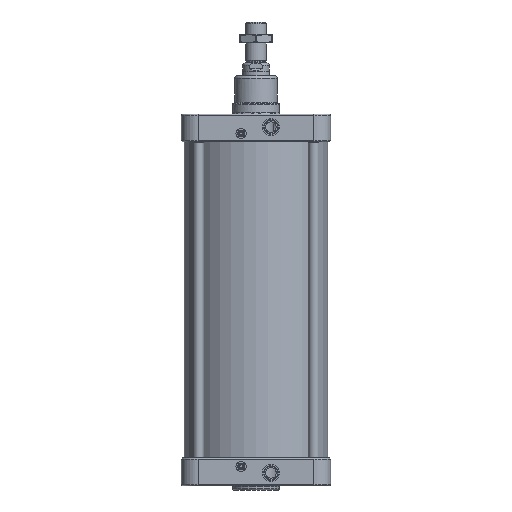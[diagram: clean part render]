
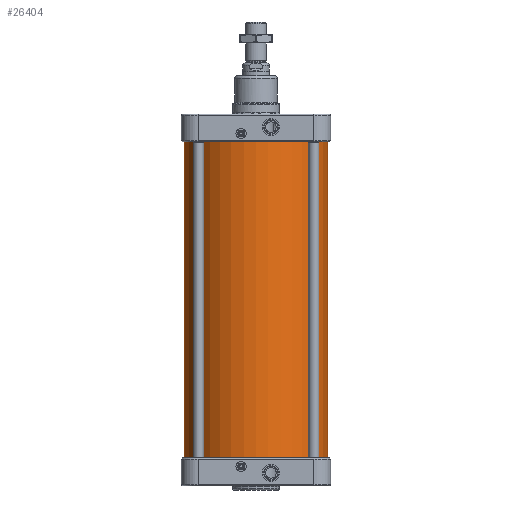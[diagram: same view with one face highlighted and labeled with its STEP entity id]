
A CAD part, front view. The second image highlights one B-rep face of the part: STEP entity #26404.
In plain terms, the highlighted cylindrical face has radius 168 mm (diameter 336 mm), a full revolution.
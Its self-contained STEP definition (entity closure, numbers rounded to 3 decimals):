
#2804=CIRCLE('',#29645,168.);
#2805=CIRCLE('',#29647,168.);
#3478=FACE_BOUND('',#7098,.T.);
#5147=FACE_OUTER_BOUND('',#7097,.T.);
#7097=EDGE_LOOP('',(#22547));
#7098=EDGE_LOOP('',(#22548));
#11979=VERTEX_POINT('',#64759);
#11980=VERTEX_POINT('',#64762);
#15511=EDGE_CURVE('',#11979,#11979,#2804,.T.);
#15512=EDGE_CURVE('',#11980,#11980,#2805,.T.);
#22547=ORIENTED_EDGE('',*,*,#15511,.T.);
#22548=ORIENTED_EDGE('',*,*,#15512,.T.);
#23070=CYLINDRICAL_SURFACE('',#29646,168.);
#26404=ADVANCED_FACE('',(#5147,#3478),#23070,.T.);
#29645=AXIS2_PLACEMENT_3D('',#64760,#36878,#36879);
#29646=AXIS2_PLACEMENT_3D('',#64761,#36880,#36881);
#29647=AXIS2_PLACEMENT_3D('',#64763,#36882,#36883);
#36878=DIRECTION('center_axis',(0.,0.,1.));
#36879=DIRECTION('ref_axis',(-1.,0.,0.));
#36880=DIRECTION('center_axis',(0.,0.,1.));
#36881=DIRECTION('ref_axis',(-1.,0.,0.));
#36882=DIRECTION('center_axis',(0.,0.,-1.));
#36883=DIRECTION('ref_axis',(-1.,0.,0.));
#64759=CARTESIAN_POINT('',(168.,0.,-370.));
#64760=CARTESIAN_POINT('Origin',(0.,0.,-370.));
#64761=CARTESIAN_POINT('Origin',(0.,0.,0.));
#64762=CARTESIAN_POINT('',(168.,0.,370.));
#64763=CARTESIAN_POINT('Origin',(0.,0.,370.));
